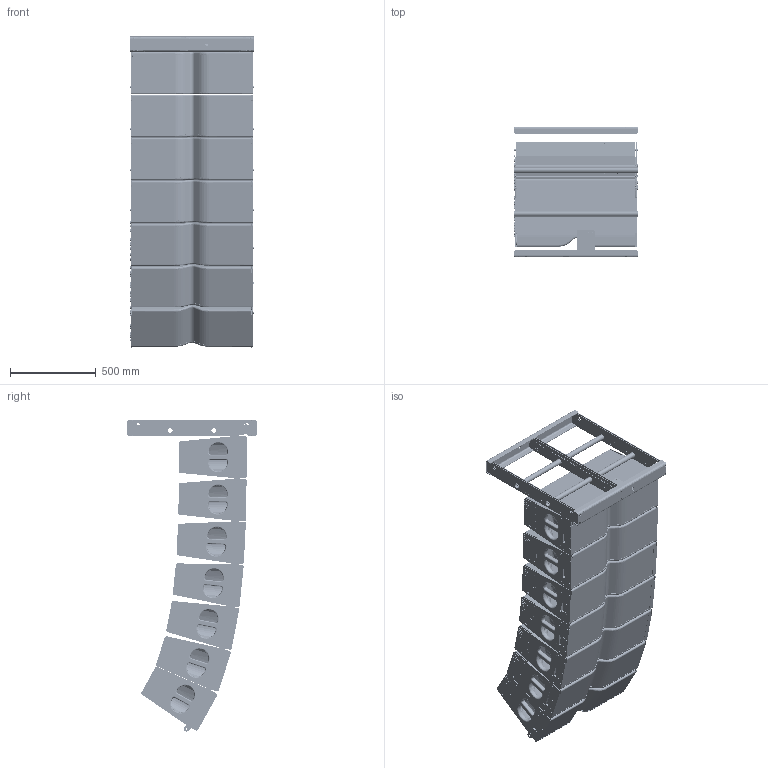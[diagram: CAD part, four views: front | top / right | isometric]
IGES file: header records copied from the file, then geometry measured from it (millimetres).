
Global section: file name: LA28 7 Box ARRAY v7; native system: unknown; preprocessor: unknown; author: unknown; organization: unknown; date: 20230122.000945; units: inch
Bounding box: 726.62 x 762 x 1810.47 mm (x, y, z)
Volume: 405516102.5 mm3; surface area: 10249450.6 mm2
Topology: 22 solids, 22 shells, 3553 faces, 9561 edges, 6424 vertices
Faces by surface type: bspline 3553
